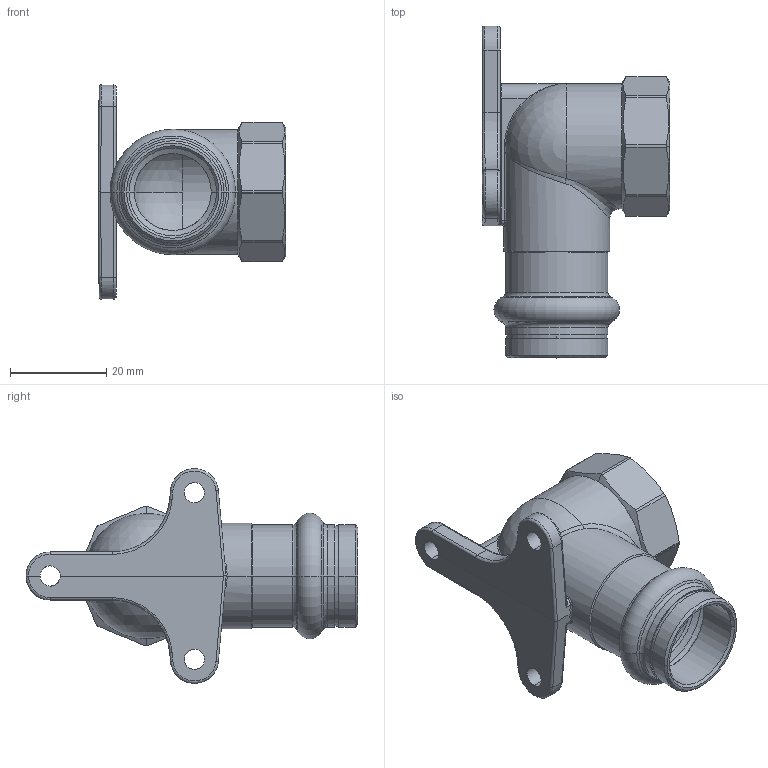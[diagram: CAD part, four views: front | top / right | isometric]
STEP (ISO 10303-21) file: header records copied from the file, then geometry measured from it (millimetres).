
FILE_DESCRIPTION (( 'STEP AP203' ), '1' );
FILE_NAME ('SP4471G Ø18 1-2.STEP', '2017-04-28T08:30:36', ( '' ), ( '' ), 'SwSTEP 2.0', 'SolidWorks 2016', '' );
FILE_SCHEMA (( 'CONFIG_CONTROL_DESIGN' ));
Length unit declared in the file: millimetre
Products named in the file (1): SP4471G Ø18 1-2
Bounding box: 39 x 69 x 44.64 mm (x, y, z)
Volume: 15011.3 mm3; surface area: 11498.2 mm2
Topology: 1 solids, 1 shells, 160 faces, 387 edges, 222 vertices
Faces by surface type: cylinder 62, cone 26, plane 25, torus 22, bspline 21, sphere 4
Entity records: 6119 total; most frequent: CARTESIAN_POINT 2494, DIRECTION 761, ORIENTED_EDGE 754, EDGE_CURVE 377, AXIS2_PLACEMENT_3D 318, VERTEX_POINT 220, CIRCLE 178, EDGE_LOOP 169
